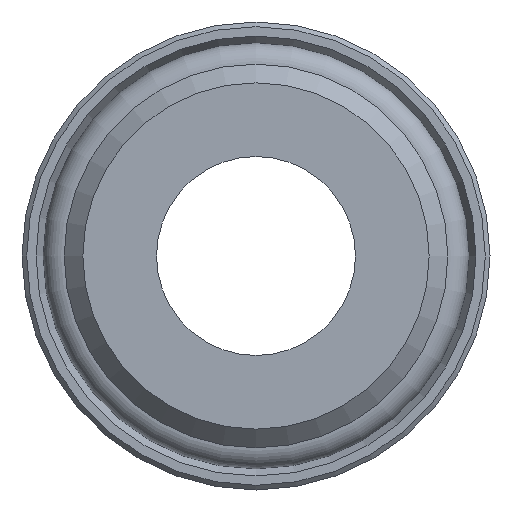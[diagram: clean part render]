
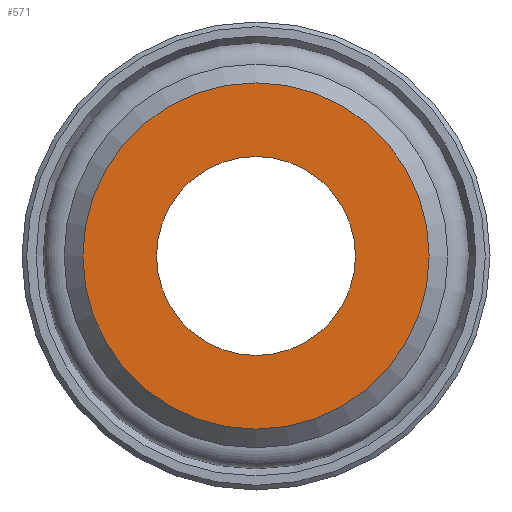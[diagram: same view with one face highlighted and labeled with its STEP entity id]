
A CAD part, front view. The second image highlights one B-rep face of the part: STEP entity #571.
In plain terms, the highlighted planar face has unit normal (0, -1, 0).
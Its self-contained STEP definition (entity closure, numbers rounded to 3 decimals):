
#544=CARTESIAN_POINT('',(-5.825,0.0,0.0));
#545=DIRECTION('',(0.0,-1.0,0.0));
#546=DIRECTION('',(0.0,0.0,-1.0));
#547=AXIS2_PLACEMENT_3D('',#544,#545,#546);
#548=PLANE('',#547);
#549=CARTESIAN_POINT('',(-7.4,0.0,0.0));
#550=VERTEX_POINT('',#549);
#551=CARTESIAN_POINT('',(0.0,0.0,0.0));
#552=DIRECTION('',(0.0,1.0,0.0));
#553=DIRECTION('',(-1.0,0.0,0.0));
#554=AXIS2_PLACEMENT_3D('',#551,#552,#553);
#555=CIRCLE('',#554,7.4);
#556=EDGE_CURVE('',#550,#550,#555,.T.);
#557=ORIENTED_EDGE('',*,*,#556,.F.);
#558=EDGE_LOOP('',(#557));
#559=FACE_OUTER_BOUND('',#558,.T.);
#560=CARTESIAN_POINT('',(-4.25,0.0,0.0));
#561=VERTEX_POINT('',#560);
#562=CARTESIAN_POINT('',(0.0,0.0,0.0));
#563=DIRECTION('',(0.0,1.0,0.0));
#564=DIRECTION('',(-1.0,0.0,0.0));
#565=AXIS2_PLACEMENT_3D('',#562,#563,#564);
#566=CIRCLE('',#565,4.25);
#567=EDGE_CURVE('',#561,#561,#566,.T.);
#568=ORIENTED_EDGE('',*,*,#567,.T.);
#569=EDGE_LOOP('',(#568));
#570=FACE_BOUND('',#569,.T.);
#571=ADVANCED_FACE('',(#559,#570),#548,.T.);
